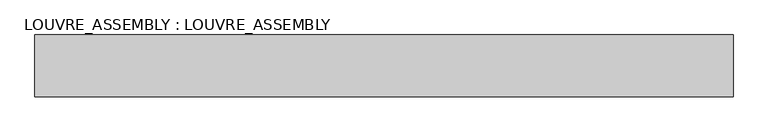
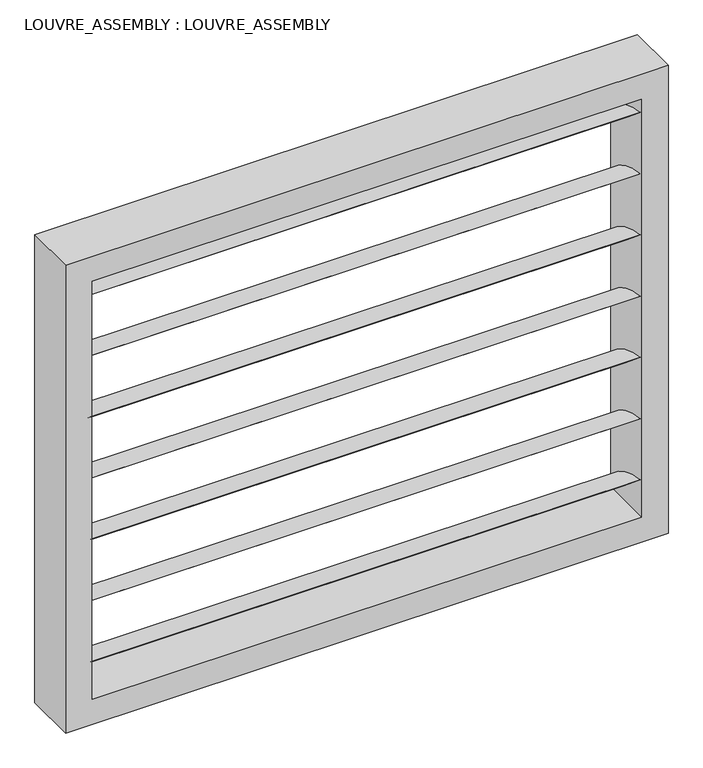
"""IFC4 building model written with IfcOpenShell, lengths in millimetres: plate geometry, LOUVRE_ASSEMBLY : LOUVRE_ASSEMBLY."""

from ifc_helpers import new_model, si_unit, point, frame, frame_2d, origin, place, context, project, spatial, circle_curve, trimmed, segment, composite_curve, outline, extrude, faceted_brep, source, transform, mapped, element, save


def louvre_assembly_louvre_assembly_33a35c59(model_context):
    return source(origin(), model_context, "Body", "SolidModel", [
        extrude(outline(composite_curve([segment(trimmed(circle_curve(frame_2d((88.749835, 522.8246353)), 222.9910312), [point((67.973084, 300.8036304))], [point((-67.973084, 364.1963696))], False, "CARTESIAN"), True, "CONTINUOUS"), segment(trimmed(circle_curve(frame_2d((-88.749835, 142.1753647)), 222.9910312), [point((-67.973084, 364.1963696))], [point((67.973084, 300.8036304))], False, "CARTESIAN"), True, "CONTINUOUS")], self_intersect=False)), frame((-775.0, 0.0, 0.0), z_axis=(1.0, 0.0, 0.0), x_axis=(0.0, 1.0, 0.0)), (0.0, 0.0, 1.0), 1550.0),
        extrude(outline(composite_curve([segment(trimmed(circle_curve(frame_2d((88.749835, 705.3246353)), 222.9910312), [point((67.973084, 483.3036304))], [point((-67.973084, 546.6963696))], False, "CARTESIAN"), True, "CONTINUOUS"), segment(trimmed(circle_curve(frame_2d((-88.749835, 324.6753647)), 222.9910312), [point((-67.973084, 546.6963696))], [point((67.973084, 483.3036304))], False, "CARTESIAN"), True, "CONTINUOUS")], self_intersect=False)), frame((-775.0, 0.0, 0.0), z_axis=(1.0, 0.0, 0.0), x_axis=(0.0, 1.0, 0.0)), (0.0, 0.0, 1.0), 1550.0),
        extrude(outline(composite_curve([segment(trimmed(circle_curve(frame_2d((88.749835, 887.8246353)), 222.9910312), [point((67.973084, 665.8036304))], [point((-67.973084, 729.1963696))], False, "CARTESIAN"), True, "CONTINUOUS"), segment(trimmed(circle_curve(frame_2d((-88.749835, 507.1753647)), 222.9910312), [point((-67.973084, 729.1963696))], [point((67.973084, 665.8036304))], False, "CARTESIAN"), True, "CONTINUOUS")], self_intersect=False)), frame((-775.0, 0.0, 0.0), z_axis=(1.0, 0.0, 0.0), x_axis=(0.0, 1.0, 0.0)), (0.0, 0.0, 1.0), 1550.0),
        extrude(outline(composite_curve([segment(trimmed(circle_curve(frame_2d((88.749835, 1070.3246353)), 222.9910312), [point((67.973084, 848.3036304))], [point((-67.973084, 911.6963696))], False, "CARTESIAN"), True, "CONTINUOUS"), segment(trimmed(circle_curve(frame_2d((-88.749835, 689.6753647)), 222.9910312), [point((-67.973084, 911.6963696))], [point((67.973084, 848.3036304))], False, "CARTESIAN"), True, "CONTINUOUS")], self_intersect=False)), frame((-775.0, 0.0, 0.0), z_axis=(1.0, 0.0, 0.0), x_axis=(0.0, 1.0, 0.0)), (0.0, 0.0, 1.0), 1550.0),
        extrude(outline(composite_curve([segment(trimmed(circle_curve(frame_2d((88.749835, 1252.8246353)), 222.9910312), [point((67.973084, 1030.8036304))], [point((-67.973084, 1094.1963696))], False, "CARTESIAN"), True, "CONTINUOUS"), segment(trimmed(circle_curve(frame_2d((-88.749835, 872.1753647)), 222.9910312), [point((-67.973084, 1094.1963696))], [point((67.973084, 1030.8036304))], False, "CARTESIAN"), True, "CONTINUOUS")], self_intersect=False)), frame((-775.0, 0.0, 0.0), z_axis=(1.0, 0.0, 0.0), x_axis=(0.0, 1.0, 0.0)), (0.0, 0.0, 1.0), 1550.0),
        extrude(outline(composite_curve([segment(trimmed(circle_curve(frame_2d((88.749835, 340.3246353)), 222.9910312), [point((67.973084, 118.3036304))], [point((-67.973084, 181.6963696))], False, "CARTESIAN"), True, "CONTINUOUS"), segment(trimmed(circle_curve(frame_2d((-88.749835, -40.3246353)), 222.9910312), [point((-67.973084, 181.6963696))], [point((67.973084, 118.3036304))], False, "CARTESIAN"), True, "CONTINUOUS")], self_intersect=False)), frame((-775.0, 0.0, 0.0), z_axis=(1.0, 0.0, 0.0), x_axis=(0.0, 1.0, 0.0)), (0.0, 0.0, 1.0), 1550.0),
        extrude(outline(composite_curve([segment(trimmed(circle_curve(frame_2d((88.749835, 1435.3246353)), 222.9910312), [point((67.973084, 1213.3036304))], [point((-67.973084, 1276.6963696))], False, "CARTESIAN"), True, "CONTINUOUS"), segment(trimmed(circle_curve(frame_2d((-88.749835, 1054.6753647)), 222.9910312), [point((-67.973084, 1276.6963696))], [point((67.973084, 1213.3036304))], False, "CARTESIAN"), True, "CONTINUOUS")], self_intersect=False)), frame((-775.0, 0.0, 0.0), z_axis=(1.0, 0.0, 0.0), x_axis=(0.0, 1.0, 0.0)), (0.0, 0.0, 1.0), 1550.0),
        faceted_brep([(-850.0, -75.0, 1395.0), (-850.0, 75.0, 1395.0), (-850.0, 75.0, 0.0), (-850.0, -75.0, 0.0), (-844.375, 75.0, 1389.375), (-844.375, -69.375, 1389.375), (-844.375, -69.375, 5.625), (-844.375, 75.0, 5.625), (-780.625, -69.375, 1325.625), (-780.625, 75.0, 1325.625), (-780.625, 75.0, 69.375), (-780.625, -69.375, 69.375), (-775.0, 75.0, 1320.0), (-775.0, -75.0, 1320.0), (-775.0, -75.0, 75.0), (-775.0, 75.0, 75.0), (850.0, 75.0, 0.0), (850.0, -75.0, 0.0), (844.375, -69.375, 5.625), (844.375, 75.0, 5.625), (780.625, 75.0, 69.375), (780.625, -69.375, 69.375), (775.0, -75.0, 75.0), (775.0, 75.0, 75.0), (850.0, 75.0, 1395.0), (850.0, -75.0, 1395.0), (844.375, -69.375, 1389.375), (844.375, 75.0, 1389.375), (780.625, 75.0, 1325.625), (780.625, -69.375, 1325.625), (775.0, -75.0, 1320.0), (775.0, 75.0, 1320.0)], [[[0, 1, 2, 3]], [[4, 5, 6, 7]], [[8, 9, 10, 11]], [[12, 13, 14, 15]], [[3, 2, 16, 17]], [[7, 6, 18, 19]], [[11, 10, 20, 21]], [[15, 14, 22, 23]], [[17, 16, 24, 25]], [[19, 18, 26, 27]], [[21, 20, 28, 29]], [[23, 22, 30, 31]], [[25, 24, 1, 0]], [[27, 26, 5, 4]], [[29, 28, 9, 8]], [[31, 30, 13, 12]], [[3, 17, 25, 0], [13, 30, 22, 14]], [[9, 28, 20, 10], [15, 23, 31, 12]], [[5, 26, 18, 6], [11, 21, 29, 8]], [[1, 24, 16, 2], [7, 19, 27, 4]]]),
    ])


if __name__ == "__main__":
    model = new_model("IFC4")
    model_context = context("Model", 3, world=origin())
    ifc_project = project(units=[si_unit("LENGTHUNIT", "METRE", prefix="MILLI")], contexts=[model_context])
    site = spatial("IfcSite", under=ifc_project)
    building = spatial("IfcBuilding", under=site)
    placement = place(None, origin())
    louvre_assembly_louvre_assembly_shape = louvre_assembly_louvre_assembly_33a35c59(model_context)
    element("IfcPlate", 1, ObjectType="LOUVRE_ASSEMBLY : LOUVRE_ASSEMBLY", at=placement, inside=building, context=model_context, shape_type="MappedRepresentation", body=[
        mapped(louvre_assembly_louvre_assembly_shape, transform((0.0, 0.0, 0.0), x_axis=(1.0, 0.0, 0.0), y_axis=(0.0, 1.0, 0.0), z_axis=(0.0, 0.0, 1.0))),
    ])
    save(model, "model.ifc")
